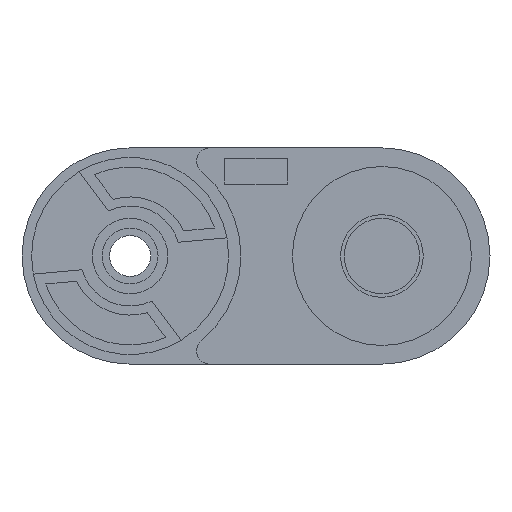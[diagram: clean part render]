
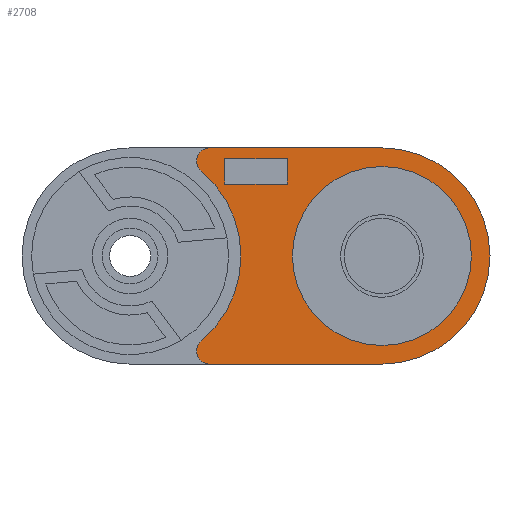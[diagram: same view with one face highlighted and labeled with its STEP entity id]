
A CAD part, front view. The second image highlights one B-rep face of the part: STEP entity #2708.
In plain terms, the highlighted planar face has unit normal (0, -1, 0).
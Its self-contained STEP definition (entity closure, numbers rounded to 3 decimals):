
#2708=ADVANCED_FACE('',(#7679,#7681,#7683),#7685,.T.);
#7679=FACE_BOUND('',#7680,.T.);
#7680=EDGE_LOOP('',(#12104,#12105,#12106,#12107,#12108,#12109));
#7681=FACE_BOUND('',#7682,.T.);
#7682=EDGE_LOOP('',(#12110,#12111,#12112,#12113));
#7683=FACE_BOUND('',#7684,.T.);
#7684=EDGE_LOOP('',(#12114));
#7685=PLANE('',#7686);
#7686=AXIS2_PLACEMENT_3D('',#7687,#7688,#7689);
#7687=CARTESIAN_POINT('',(0.,4.4,0.));
#7688=DIRECTION('',(0.,-1.,0.));
#7689=DIRECTION('',(-1.,0.,0.));
#12104=ORIENTED_EDGE('',*,*,#14606,.F.);
#12105=ORIENTED_EDGE('',*,*,#14607,.T.);
#12106=ORIENTED_EDGE('',*,*,#14608,.F.);
#12107=ORIENTED_EDGE('',*,*,#14609,.F.);
#12108=ORIENTED_EDGE('',*,*,#14610,.F.);
#12109=ORIENTED_EDGE('',*,*,#14611,.T.);
#12110=ORIENTED_EDGE('',*,*,#14612,.F.);
#12111=ORIENTED_EDGE('',*,*,#14613,.F.);
#12112=ORIENTED_EDGE('',*,*,#14614,.F.);
#12113=ORIENTED_EDGE('',*,*,#14615,.F.);
#12114=ORIENTED_EDGE('',*,*,#14616,.T.);
#14606=EDGE_CURVE('',#16683,#16684,#16685,.F.);
#14607=EDGE_CURVE('',#16683,#16686,#16687,.F.);
#14608=EDGE_CURVE('',#16688,#16686,#16689,.T.);
#14609=EDGE_CURVE('',#16690,#16688,#16691,.T.);
#14610=EDGE_CURVE('',#16692,#16690,#16693,.T.);
#14611=EDGE_CURVE('',#16692,#16684,#16694,.F.);
#14612=EDGE_CURVE('',#16695,#16696,#16697,.T.);
#14613=EDGE_CURVE('',#16698,#16695,#16699,.T.);
#14614=EDGE_CURVE('',#16700,#16698,#16701,.T.);
#14615=EDGE_CURVE('',#16696,#16700,#16702,.T.);
#14616=EDGE_CURVE('',#16703,#16703,#16704,.T.);
#16683=VERTEX_POINT('',#20995);
#16684=VERTEX_POINT('',#20996);
#16685=CIRCLE('',#20997,20.25);
#16686=VERTEX_POINT('',#21001);
#16687=CIRCLE('',#21002,2.4);
#16688=VERTEX_POINT('',#21006);
#16689=LINE('',#21007,#21008);
#16690=VERTEX_POINT('',#21010);
#16691=CIRCLE('',#21011,19.75);
#16692=VERTEX_POINT('',#21015);
#16693=LINE('',#21016,#21017);
#16694=CIRCLE('',#21019,2.4);
#16695=VERTEX_POINT('',#21023);
#16696=VERTEX_POINT('',#21024);
#16697=LINE('',#21025,#21026);
#16698=VERTEX_POINT('',#21028);
#16699=LINE('',#21029,#21030);
#16700=VERTEX_POINT('',#21032);
#16701=LINE('',#21033,#21034);
#16702=LINE('',#21036,#21037);
#16703=VERTEX_POINT('',#21039);
#16704=CIRCLE('',#21040,16.35);
#20995=CARTESIAN_POINT('',(-9.983,4.4,15.512));
#20996=CARTESIAN_POINT('',(-9.983,4.4,-15.512));
#20997=AXIS2_PLACEMENT_3D('',#20998,#20999,#21000);
#20998=CARTESIAN_POINT('',(-23.,4.4,0.));
#20999=DIRECTION('',(0.,-1.,0.));
#21000=DIRECTION('',(0.643,0.,-0.766));
#21001=CARTESIAN_POINT('',(-8.44,4.4,19.75));
#21002=AXIS2_PLACEMENT_3D('',#21003,#21004,#21005);
#21003=CARTESIAN_POINT('',(-8.44,4.4,17.35));
#21004=DIRECTION('',(0.,-1.,0.));
#21005=DIRECTION('',(0.,0.,1.));
#21006=CARTESIAN_POINT('',(23.,4.4,19.75));
#21007=CARTESIAN_POINT('',(23.,4.4,19.75));
#21008=VECTOR('',#21009,1.);
#21009=DIRECTION('',(-1.,0.,0.));
#21010=CARTESIAN_POINT('',(23.,4.4,-19.75));
#21011=AXIS2_PLACEMENT_3D('',#21012,#21013,#21014);
#21012=CARTESIAN_POINT('',(23.,4.4,0.));
#21013=DIRECTION('',(0.,-1.,0.));
#21014=DIRECTION('',(0.,0.,-1.));
#21015=CARTESIAN_POINT('',(-8.44,4.4,-19.75));
#21016=CARTESIAN_POINT('',(-8.44,4.4,-19.75));
#21017=VECTOR('',#21018,1.);
#21018=DIRECTION('',(1.,0.,0.));
#21019=AXIS2_PLACEMENT_3D('',#21020,#21021,#21022);
#21020=CARTESIAN_POINT('',(-8.44,4.4,-17.35));
#21021=DIRECTION('',(0.,-1.,0.));
#21022=DIRECTION('',(-0.643,0.,0.766));
#21023=CARTESIAN_POINT('',(-5.75,4.4,-17.75));
#21024=CARTESIAN_POINT('',(-5.75,4.4,-13.15));
#21025=CARTESIAN_POINT('',(-5.75,4.4,-17.75));
#21026=VECTOR('',#21027,1.);
#21027=DIRECTION('',(0.,0.,1.));
#21028=CARTESIAN_POINT('',(5.75,4.4,-17.75));
#21029=CARTESIAN_POINT('',(5.75,4.4,-17.75));
#21030=VECTOR('',#21031,1.);
#21031=DIRECTION('',(-1.,0.,0.));
#21032=CARTESIAN_POINT('',(5.75,4.4,-13.15));
#21033=CARTESIAN_POINT('',(5.75,4.4,-13.15));
#21034=VECTOR('',#21035,1.);
#21035=DIRECTION('',(0.,0.,-1.));
#21036=CARTESIAN_POINT('',(-5.75,4.4,-13.15));
#21037=VECTOR('',#21038,1.);
#21038=DIRECTION('',(1.,0.,0.));
#21039=CARTESIAN_POINT('',(6.65,4.4,0.));
#21040=AXIS2_PLACEMENT_3D('',#21041,#21042,#21043);
#21041=CARTESIAN_POINT('',(23.,4.4,0.));
#21042=DIRECTION('',(0.,-1.,0.));
#21043=DIRECTION('',(-1.,0.,0.));
